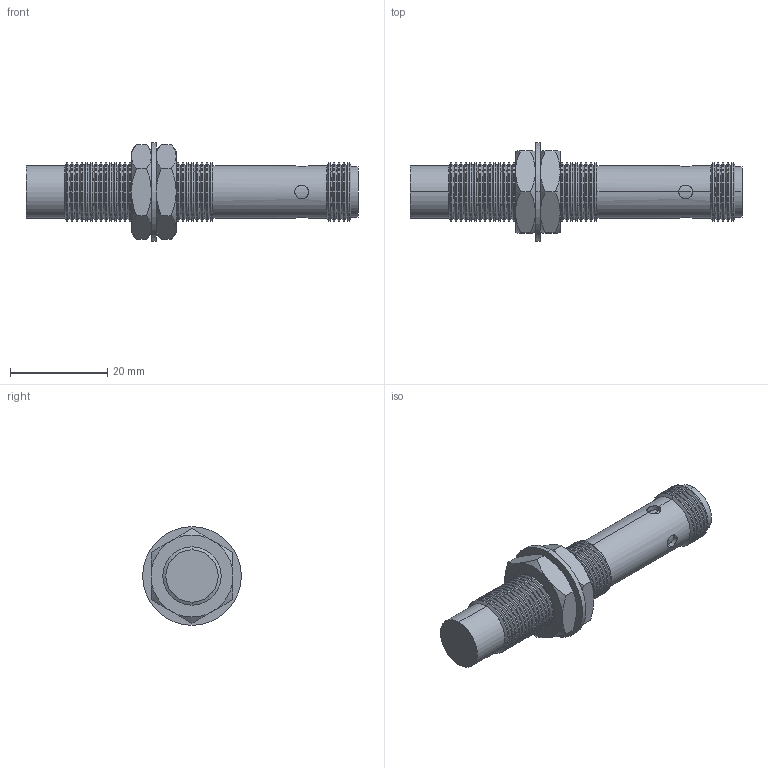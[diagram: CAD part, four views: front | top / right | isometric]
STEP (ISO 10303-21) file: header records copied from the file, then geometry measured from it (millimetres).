
FILE_DESCRIPTION (( 'STEP AP203' ), '1' );
FILE_NAME ('90-29417-071.STEP', '2016-04-26T20:01:51', ( 'Sam' ), ( 'Spade' ), 'SwSTEP 2.0', 'SolidWorks 2002296', '' );
FILE_SCHEMA (( 'CONFIG_CONTROL_DESIGN' ));
Length unit declared in the file: inch
Products named in the file (13): 90-29417-071; Imported6; Imported5; Imported4; Imported3; Imported2; Imported1; Imported; Imported9; Imported8; Imported7; Imported11; Imported10
Assembly tree (12 placements, depth 2):
  90-29417-071
    Imported5
    Imported1
    Imported2
    Imported11
    Imported6
    Imported3
    Imported9
    Imported10
    Imported7
    Imported4
    Imported
    Imported8
Bounding box: 68.33 x 20.32 x 20.32 mm (x, y, z)
Volume: 7666 mm3; surface area: 6944.8 mm2
Topology: 12 solids, 12 shells, 433 faces, 1009 edges, 593 vertices
Faces by surface type: cone 205, cylinder 136, plane 84, bspline 8
Entity records: 14173 total; most frequent: CARTESIAN_POINT 2730, DIRECTION 2286, ORIENTED_EDGE 2002, EDGE_CURVE 1001, AXIS2_PLACEMENT_3D 909, VERTEX_POINT 593, CIRCLE 469, LINE 468
